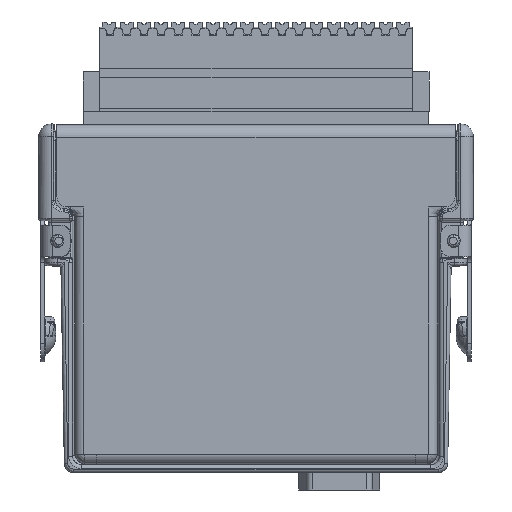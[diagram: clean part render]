
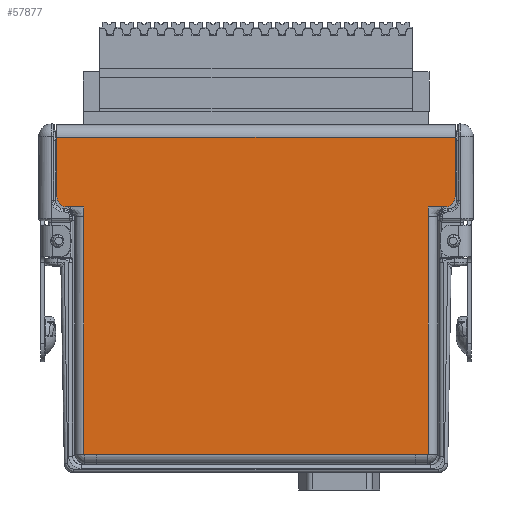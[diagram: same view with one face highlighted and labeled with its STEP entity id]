
A CAD part, left-side view. The second image highlights one B-rep face of the part: STEP entity #57877.
In plain terms, the highlighted planar face has unit normal (-1, 0, 0) as drawn and (0, 0, 1) by its records, which use the part's own axes.
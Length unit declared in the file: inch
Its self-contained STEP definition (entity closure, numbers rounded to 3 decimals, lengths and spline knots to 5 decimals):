
#56433=CARTESIAN_POINT('',(1.5095,-0.779,0.));
#56434=DIRECTION('',(0.,0.,1.));
#56435=DIRECTION('',(1.,0.,0.));
#56436=AXIS2_PLACEMENT_3D('',#56433,#56434,#56435);
#56438=DIRECTION('',(-1.,0.,0.));
#56439=VECTOR('',#56438,0.133);
#56440=CARTESIAN_POINT('',(1.5095,-0.699,0.));
#56441=LINE('',#56440,#56439);
#56450=DIRECTION('',(0.,1.,0.));
#56451=VECTOR('',#56450,0.476);
#56452=CARTESIAN_POINT('',(1.5895,-1.255,0.));
#56453=LINE('',#56452,#56451);
#56454=DIRECTION('',(0.,-1.,0.));
#56455=VECTOR('',#56454,0.476);
#56456=CARTESIAN_POINT('',(-1.5895,-0.779,0.));
#56457=LINE('',#56456,#56455);
#56458=DIRECTION('',(0.,-1.,0.));
#56459=VECTOR('',#56458,0.079);
#56460=CARTESIAN_POINT('',(-1.3765,-0.62,0.));
#56461=LINE('',#56460,#56459);
#56462=DIRECTION('',(-1.,0.,0.));
#56463=VECTOR('',#56462,0.105);
#56464=CARTESIAN_POINT('',(-1.2715,1.275,0.));
#56465=LINE('',#56464,#56463);
#56466=DIRECTION('',(-1.,0.,0.));
#56467=VECTOR('',#56466,0.105);
#56468=CARTESIAN_POINT('',(1.3765,1.275,0.));
#56469=LINE('',#56468,#56467);
#56470=DIRECTION('',(0.,-1.,0.));
#56471=VECTOR('',#56470,0.079);
#56472=CARTESIAN_POINT('',(1.3765,-0.62,0.));
#56473=LINE('',#56472,#56471);
#56487=DIRECTION('',(-1.,0.,0.));
#56488=VECTOR('',#56487,3.179);
#56489=CARTESIAN_POINT('',(1.5895,-1.255,0.));
#56490=LINE('',#56489,#56488);
#56699=CARTESIAN_POINT('',(-1.5095,-0.779,0.));
#56700=DIRECTION('',(0.,0.,1.));
#56701=DIRECTION('',(0.,1.,0.));
#56702=AXIS2_PLACEMENT_3D('',#56699,#56700,#56701);
#56712=DIRECTION('',(-1.,0.,0.));
#56713=VECTOR('',#56712,0.133);
#56714=CARTESIAN_POINT('',(-1.3765,-0.699,0.));
#56715=LINE('',#56714,#56713);
#56724=DIRECTION('',(0.,-1.,0.));
#56725=VECTOR('',#56724,1.895);
#56726=CARTESIAN_POINT('',(-1.3765,1.275,0.));
#56727=LINE('',#56726,#56725);
#56783=DIRECTION('',(-1.,0.,0.));
#56784=VECTOR('',#56783,2.543);
#56785=CARTESIAN_POINT('',(1.2715,1.275,0.));
#56786=LINE('',#56785,#56784);
#57059=DIRECTION('',(0.,-1.,0.));
#57060=VECTOR('',#57059,1.895);
#57061=CARTESIAN_POINT('',(1.3765,1.275,0.));
#57062=LINE('',#57061,#57060);
#57297=CARTESIAN_POINT('',(-1.5895,-1.255,0.));
#57298=VERTEX_POINT('',#57297);
#57299=CARTESIAN_POINT('',(1.5895,-1.255,0.));
#57300=VERTEX_POINT('',#57299);
#57329=CARTESIAN_POINT('',(1.2715,1.275,0.));
#57330=CARTESIAN_POINT('',(-1.2715,1.275,0.));
#57331=VERTEX_POINT('',#57329);
#57332=VERTEX_POINT('',#57330);
#57341=CARTESIAN_POINT('',(-1.3765,1.275,0.));
#57342=VERTEX_POINT('',#57341);
#57353=CARTESIAN_POINT('',(1.3765,1.275,0.));
#57354=VERTEX_POINT('',#57353);
#57410=CARTESIAN_POINT('',(1.5095,-0.699,0.));
#57412=VERTEX_POINT('',#57410);
#57415=CARTESIAN_POINT('',(1.5895,-0.779,0.));
#57416=VERTEX_POINT('',#57415);
#57418=CARTESIAN_POINT('',(-1.5895,-0.779,0.));
#57420=VERTEX_POINT('',#57418);
#57423=CARTESIAN_POINT('',(-1.5095,-0.699,0.));
#57424=VERTEX_POINT('',#57423);
#57445=CARTESIAN_POINT('',(-1.3765,-0.62,0.));
#57446=VERTEX_POINT('',#57445);
#57449=CARTESIAN_POINT('',(-1.3765,-0.699,0.));
#57450=VERTEX_POINT('',#57449);
#57457=CARTESIAN_POINT('',(1.3765,-0.62,0.));
#57458=CARTESIAN_POINT('',(1.3765,-0.699,0.));
#57459=VERTEX_POINT('',#57457);
#57460=VERTEX_POINT('',#57458);
#57844=CARTESIAN_POINT('',(0.,0.,0.));
#57845=DIRECTION('',(0.,0.,1.));
#57846=DIRECTION('',(1.,0.,0.));
#57847=AXIS2_PLACEMENT_3D('',#57844,#57845,#57846);
#57848=PLANE('',#57847);
#57849=ORIENTED_EDGE('',*,*,#57825,.F.);
#57851=ORIENTED_EDGE('',*,*,#57850,.F.);
#57853=ORIENTED_EDGE('',*,*,#57852,.T.);
#57855=ORIENTED_EDGE('',*,*,#57854,.F.);
#57857=ORIENTED_EDGE('',*,*,#57856,.F.);
#57859=ORIENTED_EDGE('',*,*,#57858,.F.);
#57861=ORIENTED_EDGE('',*,*,#57860,.F.);
#57863=ORIENTED_EDGE('',*,*,#57862,.F.);
#57865=ORIENTED_EDGE('',*,*,#57864,.F.);
#57867=ORIENTED_EDGE('',*,*,#57866,.F.);
#57869=ORIENTED_EDGE('',*,*,#57868,.F.);
#57871=ORIENTED_EDGE('',*,*,#57870,.T.);
#57873=ORIENTED_EDGE('',*,*,#57872,.T.);
#57874=ORIENTED_EDGE('',*,*,#57836,.F.);
#57875=EDGE_LOOP('',(#57849,#57851,#57853,#57855,#57857,#57859,#57861,#57863,
#57865,#57867,#57869,#57871,#57873,#57874));
#57876=FACE_OUTER_BOUND('',#57875,.F.);
#57877=ADVANCED_FACE('',(#57876),#57848,.T.);
#56437=CIRCLE('',#56436,0.08);
#56703=CIRCLE('',#56702,0.08);
#57825=EDGE_CURVE('',#57416,#57412,#56437,.T.);
#57836=EDGE_CURVE('',#57412,#57460,#56441,.T.);
#57850=EDGE_CURVE('',#57300,#57416,#56453,.T.);
#57852=EDGE_CURVE('',#57300,#57298,#56490,.T.);
#57854=EDGE_CURVE('',#57420,#57298,#56457,.T.);
#57856=EDGE_CURVE('',#57424,#57420,#56703,.T.);
#57858=EDGE_CURVE('',#57450,#57424,#56715,.T.);
#57860=EDGE_CURVE('',#57446,#57450,#56461,.T.);
#57862=EDGE_CURVE('',#57342,#57446,#56727,.T.);
#57864=EDGE_CURVE('',#57332,#57342,#56465,.T.);
#57866=EDGE_CURVE('',#57331,#57332,#56786,.T.);
#57868=EDGE_CURVE('',#57354,#57331,#56469,.T.);
#57870=EDGE_CURVE('',#57354,#57459,#57062,.T.);
#57872=EDGE_CURVE('',#57459,#57460,#56473,.T.);
